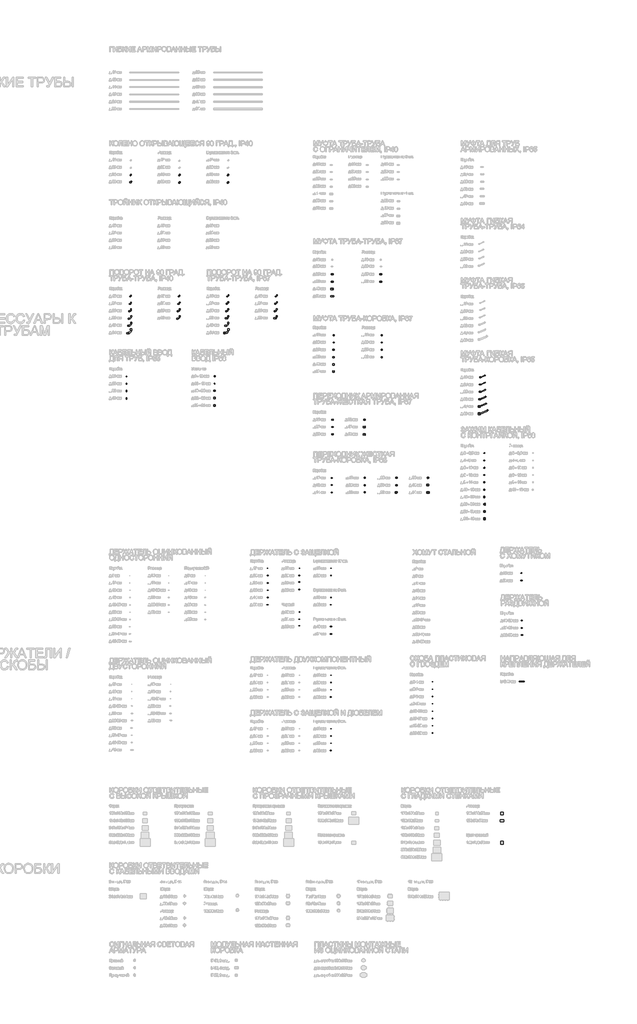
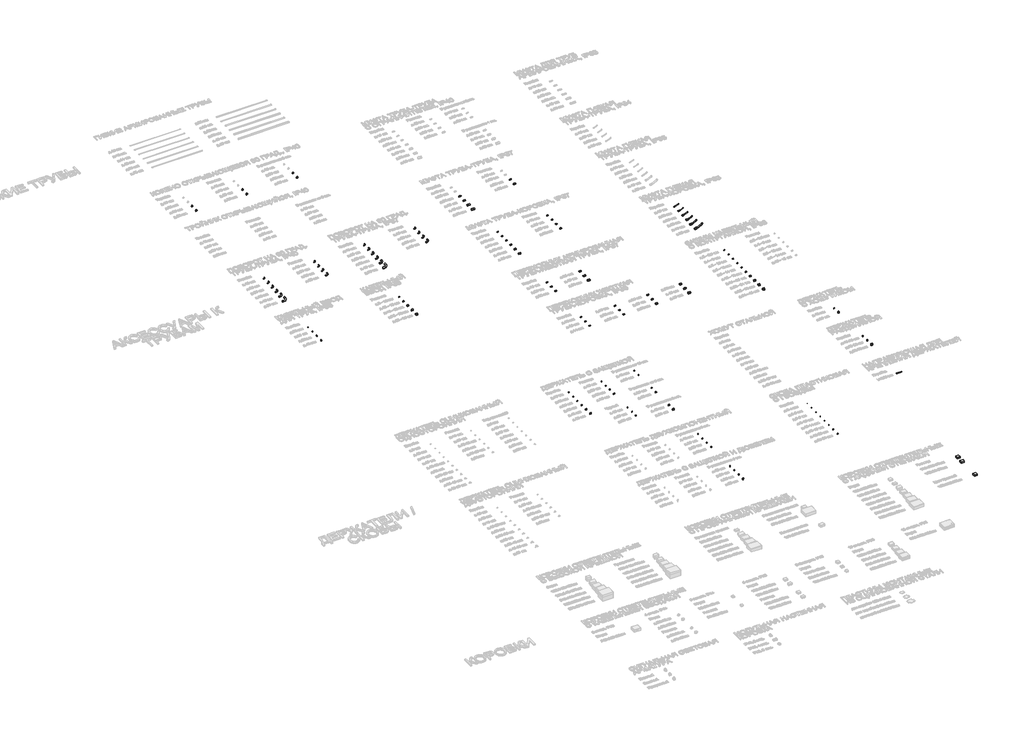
# One storey, part 2 of 98: 129 cable carrier fittings.
"""IFC4 building model written with IfcOpenShell, lengths in millimetres."""

from ifc_helpers import new_model, si_unit, origin, place, context, project, spatial, transform, mapped, element, save
from components import cable_carrier_fitting_83c2f6c6, cable_carrier_fitting_959dfac2, cable_carrier_fitting_0964ab42, cable_carrier_fitting_ca461cb8, cable_carrier_fitting_a28cdcb1, cable_carrier_fitting_54d621f1, cable_carrier_fitting_f241299a, cable_carrier_fitting_741d80a6, cable_carrier_fitting_49833688, cable_carrier_fitting_de7adbcc, cable_carrier_fitting_a7bed1c5, cable_carrier_fitting_572a19a3, cable_carrier_fitting_d5417fdc, cable_carrier_fitting_6614c523, cable_carrier_fitting_7d5fb7ba, cable_carrier_fitting_f1db5e13, cable_carrier_fitting_29cb25d6, cable_carrier_fitting_53d51709, cable_carrier_fitting_f18409c2, cable_carrier_fitting_ed05870d, cable_carrier_fitting_e81b3390, cable_carrier_fitting_d01f91c6, cable_carrier_fitting_8029289c, cable_carrier_fitting_36a5ff78, cable_carrier_fitting_5adaba82, cable_carrier_fitting_e3ed867f, cable_carrier_fitting_b6fb6266, cable_carrier_fitting_de506a34, cable_carrier_fitting_93dc7e58, cable_carrier_fitting_cf0889e4, cable_carrier_fitting_018abd7d, cable_carrier_fitting_06a44238, cable_carrier_fitting_236aead8, cable_carrier_fitting_1d697b25, cable_carrier_fitting_911b79ea, cable_carrier_fitting_f387fdf7, cable_carrier_fitting_cebaea63, cable_carrier_fitting_9d59da82, cable_carrier_fitting_9543473c, cable_carrier_fitting_1d1fce48, cable_carrier_fitting_292e486f, cable_carrier_fitting_314b5b7c, cable_carrier_fitting_377cf926, cable_carrier_fitting_34188251, cable_carrier_fitting_9b3bb634, cable_carrier_fitting_79252797, cable_carrier_fitting_e6de56af, cable_carrier_fitting_104c7cc9, cable_carrier_fitting_5131cb3e, cable_carrier_fitting_73b6cbb2, cable_carrier_fitting_b4176504, cable_carrier_fitting_637ef5a0, cable_carrier_fitting_ca41fa86, cable_carrier_fitting_328e0a5f, cable_carrier_fitting_8bd09c2a, cable_carrier_fitting_1310a5ac, cable_carrier_fitting_f97c49a7, cable_carrier_fitting_1d412742, cable_carrier_fitting_4c093579, cable_carrier_fitting_d7937d52, cable_carrier_fitting_667f8432, cable_carrier_fitting_6d12a164, cable_carrier_fitting_f9239042, cable_carrier_fitting_6c4db289, cable_carrier_fitting_a5287bdb, cable_carrier_fitting_16f909ff, cable_carrier_fitting_b7b49f06, cable_carrier_fitting_039d6c27, cable_carrier_fitting_81e078ec, cable_carrier_fitting_7bb26303, cable_carrier_fitting_d82fc51b, cable_carrier_fitting_847e22f6, cable_carrier_fitting_92adc8bc, cable_carrier_fitting_c5d78289, cable_carrier_fitting_eb64f451, cable_carrier_fitting_78a60928, cable_carrier_fitting_e854332b, cable_carrier_fitting_eb13e9ea, cable_carrier_fitting_b36d870f, cable_carrier_fitting_307e7997, cable_carrier_fitting_c9cf25a2, cable_carrier_fitting_76a3004d, cable_carrier_fitting_96dc2688, cable_carrier_fitting_54e21223, cable_carrier_fitting_8727f749, cable_carrier_fitting_9cea8719, cable_carrier_fitting_881643a7, cable_carrier_fitting_f37e0b65, cable_carrier_fitting_2b931e0a, cable_carrier_fitting_b4ac2e59, cable_carrier_fitting_32bc2b01, cable_carrier_fitting_29bca8ed

model = new_model("IFC4")

# Units and contexts
model_context = context("Model", 3, world=origin())
ifc_project = project(units=[si_unit("LENGTHUNIT", "METRE", prefix="MILLI")], contexts=[model_context])

# Site, building, storey
site = spatial("IfcSite", under=ifc_project)
building = spatial("IfcBuilding", under=site)
storey = spatial("IfcBuildingStorey", under=building, Name="Этаж 01", Elevation=0.0)

# Cable carrier fittings
placement = place(None, origin())
cable_carrier_fitting_shape = cable_carrier_fitting_83c2f6c6(model_context)
element("IfcCableCarrierFitting", 1, ObjectType="КНС_ДержательСЗащелкой_DKC : д.25мм, черный", at=placement, inside=storey, context=model_context, shape_type="MappedRepresentation", body=[
    mapped(cable_carrier_fitting_shape, transform((7768.9220832, -34584.0747966, 0.0), x_axis=(1.0, 0.0, 0.0), y_axis=(0.0, 1.0, 0.0), z_axis=(0.0, 0.0, 1.0))),
])
cable_carrier_fitting_2_shape = cable_carrier_fitting_959dfac2(model_context)
element("IfcCableCarrierFitting", 2, ObjectType="КНС_ДержательСЗащелкой_DKC : д.20мм, черный", at=placement, inside=storey, context=model_context, shape_type="MappedRepresentation", body=[
    mapped(cable_carrier_fitting_2_shape, transform((7768.9220832, -34316.3856383, 0.0), x_axis=(1.0, 0.0, 0.0), y_axis=(0.0, 1.0, 0.0), z_axis=(0.0, 0.0, 1.0))),
])
cable_carrier_fitting_3_shape = cable_carrier_fitting_0964ab42(model_context)
element("IfcCableCarrierFitting", 3, ObjectType="КНС_ДержательСЗащелкой_DKC : д.16мм, черный", at=placement, inside=storey, context=model_context, shape_type="MappedRepresentation", body=[
    mapped(cable_carrier_fitting_3_shape, transform((7768.9220832, -34016.3856383, 0.0), x_axis=(1.0, 0.0, 0.0), y_axis=(0.0, 1.0, 0.0), z_axis=(0.0, 0.0, 1.0))),
])
cable_carrier_fitting_4_shape = cable_carrier_fitting_ca461cb8(model_context)
element("IfcCableCarrierFitting", 4, ObjectType="КНС_ДержательСЗащелкой_DKC : д.32мм (розница)", at=placement, inside=storey, context=model_context, shape_type="MappedRepresentation", body=[
    mapped(cable_carrier_fitting_4_shape, transform((7768.9220832, -33084.0747966, 0.0), x_axis=(1.0, 0.0, 0.0), y_axis=(0.0, 1.0, 0.0), z_axis=(0.0, 0.0, 1.0))),
])
element("IfcCableCarrierFitting", 5, ObjectType="КНС_ДержательСЗащелкой_DKC : д.25мм (розница)", at=placement, inside=storey, context=model_context, shape_type="MappedRepresentation", body=[
    mapped(cable_carrier_fitting_shape, transform((7768.9220832, -32784.0747966, 0.0), x_axis=(1.0, 0.0, 0.0), y_axis=(0.0, 1.0, 0.0), z_axis=(0.0, 0.0, 1.0))),
])
element("IfcCableCarrierFitting", 6, ObjectType="КНС_ДержательСЗащелкой_DKC : д.20мм (розница)", at=placement, inside=storey, context=model_context, shape_type="MappedRepresentation", body=[
    mapped(cable_carrier_fitting_2_shape, transform((7768.9220832, -32516.3856383, 0.0), x_axis=(1.0, 0.0, 0.0), y_axis=(0.0, 1.0, 0.0), z_axis=(0.0, 0.0, 1.0))),
])
element("IfcCableCarrierFitting", 7, ObjectType="КНС_ДержательСЗащелкой_DKC : д.16мм (розница)", at=placement, inside=storey, context=model_context, shape_type="MappedRepresentation", body=[
    mapped(cable_carrier_fitting_3_shape, transform((7768.9220832, -32216.3856383, 0.0), x_axis=(1.0, 0.0, 0.0), y_axis=(0.0, 1.0, 0.0), z_axis=(0.0, 0.0, 1.0))),
])
cable_carrier_fitting_5_shape = cable_carrier_fitting_a28cdcb1(model_context)
element("IfcCableCarrierFitting", 8, ObjectType="КНС_ДержательСЗащелкой_DKC : д.50мм, в упаковках по 2шт.", at=placement, inside=storey, context=model_context, shape_type="MappedRepresentation", body=[
    mapped(cable_carrier_fitting_5_shape, transform((9068.9220832, -34916.3856383, 0.0), x_axis=(1.0, 0.0, 0.0), y_axis=(0.0, 1.0, 0.0), z_axis=(0.0, 0.0, 1.0))),
])
cable_carrier_fitting_6_shape = cable_carrier_fitting_54d621f1(model_context)
element("IfcCableCarrierFitting", 9, ObjectType="КНС_ДержательСЗащелкой_DKC : д.40мм, в упаковках по 2шт.", at=placement, inside=storey, context=model_context, shape_type="MappedRepresentation", body=[
    mapped(cable_carrier_fitting_6_shape, transform((9068.9220832, -34616.3856383, 0.0), x_axis=(1.0, 0.0, 0.0), y_axis=(0.0, 1.0, 0.0), z_axis=(0.0, 0.0, 1.0))),
])
element("IfcCableCarrierFitting", 10, ObjectType="КНС_ДержательСЗащелкой_DKC : д.32мм, в упаковках по 5шт.", at=placement, inside=storey, context=model_context, shape_type="MappedRepresentation", body=[
    mapped(cable_carrier_fitting_4_shape, transform((9068.9220832, -33716.3856383, 0.0), x_axis=(1.0, 0.0, 0.0), y_axis=(0.0, 1.0, 0.0), z_axis=(0.0, 0.0, 1.0))),
])
element("IfcCableCarrierFitting", 11, ObjectType="КНС_ДержательСЗащелкой_DKC : д.25мм, в упаковках по 5шт.", at=placement, inside=storey, context=model_context, shape_type="MappedRepresentation", body=[
    mapped(cable_carrier_fitting_shape, transform((9068.9220832, -33416.3856383, 0.0), x_axis=(1.0, 0.0, 0.0), y_axis=(0.0, 1.0, 0.0), z_axis=(0.0, 0.0, 1.0))),
])
element("IfcCableCarrierFitting", 12, ObjectType="КНС_ДержательСЗащелкой_DKC : д.20мм, в упаковках по 10шт.", at=placement, inside=storey, context=model_context, shape_type="MappedRepresentation", body=[
    mapped(cable_carrier_fitting_2_shape, transform((9068.9220832, -32516.3856383, 0.0), x_axis=(1.0, 0.0, 0.0), y_axis=(0.0, 1.0, 0.0), z_axis=(0.0, 0.0, 1.0))),
])
element("IfcCableCarrierFitting", 13, ObjectType="КНС_ДержательСЗащелкой_DKC : д.16мм, в упаковках по 10шт.", at=placement, inside=storey, context=model_context, shape_type="MappedRepresentation", body=[
    mapped(cable_carrier_fitting_3_shape, transform((9068.9220832, -32216.3856383, 0.0), x_axis=(1.0, 0.0, 0.0), y_axis=(0.0, 1.0, 0.0), z_axis=(0.0, 0.0, 1.0))),
])
element("IfcCableCarrierFitting", 14, ObjectType="КНС_ДержательСЗащелкой_DKC : д.50мм", at=placement, inside=storey, context=model_context, shape_type="MappedRepresentation", body=[
    mapped(cable_carrier_fitting_5_shape, transform((6468.9220832, -33716.3856383, 0.0), x_axis=(1.0, 0.0, 0.0), y_axis=(0.0, 1.0, 0.0), z_axis=(0.0, 0.0, 1.0))),
])
element("IfcCableCarrierFitting", 15, ObjectType="КНС_ДержательСЗащелкой_DKC : д.40мм", at=placement, inside=storey, context=model_context, shape_type="MappedRepresentation", body=[
    mapped(cable_carrier_fitting_6_shape, transform((6468.9220832, -33416.3856383, 0.0), x_axis=(1.0, 0.0, 0.0), y_axis=(0.0, 1.0, 0.0), z_axis=(0.0, 0.0, 1.0))),
])
element("IfcCableCarrierFitting", 16, ObjectType="КНС_ДержательСЗащелкой_DKC : д.32мм", at=placement, inside=storey, context=model_context, shape_type="MappedRepresentation", body=[
    mapped(cable_carrier_fitting_4_shape, transform((6468.9220832, -33116.3856383, 0.0), x_axis=(1.0, 0.0, 0.0), y_axis=(0.0, 1.0, 0.0), z_axis=(0.0, 0.0, 1.0))),
])
element("IfcCableCarrierFitting", 17, ObjectType="КНС_ДержательСЗащелкой_DKC : д.25мм", at=placement, inside=storey, context=model_context, shape_type="MappedRepresentation", body=[
    mapped(cable_carrier_fitting_shape, transform((6468.9220832, -32816.3856383, 0.0), x_axis=(1.0, 0.0, 0.0), y_axis=(0.0, 1.0, 0.0), z_axis=(0.0, 0.0, 1.0))),
])
element("IfcCableCarrierFitting", 18, ObjectType="КНС_ДержательСЗащелкой_DKC : д.20мм", at=placement, inside=storey, context=model_context, shape_type="MappedRepresentation", body=[
    mapped(cable_carrier_fitting_2_shape, transform((6468.9220832, -32516.3856383, 0.0), x_axis=(1.0, 0.0, 0.0), y_axis=(0.0, 1.0, 0.0), z_axis=(0.0, 0.0, 1.0))),
])
element("IfcCableCarrierFitting", 19, ObjectType="КНС_ДержательСЗащелкой_DKC : д.16мм", at=placement, inside=storey, context=model_context, shape_type="MappedRepresentation", body=[
    mapped(cable_carrier_fitting_3_shape, transform((6468.9220832, -32216.3856383, 0.0), x_axis=(1.0, 0.0, 0.0), y_axis=(0.0, 1.0, 0.0), z_axis=(0.0, 0.0, 1.0))),
])
cable_carrier_fitting_7_shape = cable_carrier_fitting_f241299a(model_context)
element("IfcCableCarrierFitting", 20, ObjectType="КНС_КабельныйВводДляТруб_IP55_DKC : Коробка", at=placement, inside=storey, context=model_context, shape_type="MappedRepresentation", body=[
    mapped(cable_carrier_fitting_7_shape, transform((648.3492499, -25227.2484013, 0.0), x_axis=(1.0, 0.0, 0.0), y_axis=(0.0, 1.0, 0.0), z_axis=(0.0, 0.0, 1.0))),
])
cable_carrier_fitting_8_shape = cable_carrier_fitting_741d80a6(model_context)
element("IfcCableCarrierFitting", 21, ObjectType="КНС_КоленоОткрывающееся90Градусов_IP40_DKC : Коробка", at=placement, inside=storey, context=model_context, shape_type="MappedRepresentation", body=[
    mapped(cable_carrier_fitting_8_shape, transform((850.9715545, -16343.5121665, 0.0), x_axis=(1.0, 0.0, 0.0), y_axis=(0.0, 1.0, 0.0), z_axis=(0.0, 0.0, 1.0))),
])
element("IfcCableCarrierFitting", 22, ObjectType="КНС_КоленоОткрывающееся90Градусов_IP40_DKC : Розница", at=placement, inside=storey, context=model_context, shape_type="MappedRepresentation", body=[
    mapped(cable_carrier_fitting_8_shape, transform((2850.9715545, -16359.5121665, 0.0), x_axis=(1.0, 0.0, 0.0), y_axis=(0.0, 1.0, 0.0), z_axis=(0.0, 0.0, 1.0))),
])
element("IfcCableCarrierFitting", 23, ObjectType="КНС_КоленоОткрывающееся90Градусов_IP40_DKC : В упаковках по 2шт.", at=placement, inside=storey, context=model_context, shape_type="MappedRepresentation", body=[
    mapped(cable_carrier_fitting_8_shape, transform((4850.9715545, -16359.5121665, 0.0), x_axis=(1.0, 0.0, 0.0), y_axis=(0.0, 1.0, 0.0), z_axis=(0.0, 0.0, 1.0))),
])
cable_carrier_fitting_9_shape = cable_carrier_fitting_49833688(model_context)
element("IfcCableCarrierFitting", 24, ObjectType="КНС_МуфтаТрубаКоробка_IP67_DKC : Коробка", at=placement, inside=storey, context=model_context, shape_type="MappedRepresentation", body=[
    mapped(cable_carrier_fitting_9_shape, transform((9179.1430911, -23531.5733471, 0.0), x_axis=(1.0, 0.0, 0.0), y_axis=(0.0, 1.0, 0.0), z_axis=(0.0, 0.0, 1.0))),
])
element("IfcCableCarrierFitting", 25, ObjectType="КНС_МуфтаТрубаКоробка_IP67_DKC : Розница", at=placement, inside=storey, context=model_context, shape_type="MappedRepresentation", body=[
    mapped(cable_carrier_fitting_9_shape, transform((11159.1430911, -23531.5733471, 0.0), x_axis=(1.0, 0.0, 0.0), y_axis=(0.0, 1.0, 0.0), z_axis=(0.0, 0.0, 1.0))),
])
cable_carrier_fitting_10_shape = cable_carrier_fitting_de7adbcc(model_context)
element("IfcCableCarrierFitting", 26, ObjectType="КНС_МуфтаТрубаТруба_IP67_DKC : Коробка", at=placement, inside=storey, context=model_context, shape_type="MappedRepresentation", body=[
    mapped(cable_carrier_fitting_10_shape, transform((9122.0021402, -20426.5458067, 0.0), x_axis=(1.0, 0.0, 0.0), y_axis=(0.0, 1.0, 0.0), z_axis=(0.0, 0.0, 1.0))),
])
element("IfcCableCarrierFitting", 27, ObjectType="КНС_МуфтаТрубаТруба_IP67_DKC : Розница", at=placement, inside=storey, context=model_context, shape_type="MappedRepresentation", body=[
    mapped(cable_carrier_fitting_10_shape, transform((11122.0021402, -20426.5458067, 0.0), x_axis=(1.0, 0.0, 0.0), y_axis=(0.0, 1.0, 0.0), z_axis=(0.0, 0.0, 1.0))),
])
cable_carrier_fitting_11_shape = cable_carrier_fitting_a7bed1c5(model_context)
element("IfcCableCarrierFitting", 28, ObjectType="КНС_ПереходникАрмированнаяТрубаЖесткаяТруба_IP67_DKC : Коробка", at=placement, inside=storey, context=model_context, shape_type="MappedRepresentation", body=[
    mapped(cable_carrier_fitting_11_shape, transform((9137.0342975, -26106.1968608, 0.0), x_axis=(1.0, 0.0, 0.0), y_axis=(0.0, 1.0, 0.0), z_axis=(0.0, 0.0, 1.0))),
])
cable_carrier_fitting_12_shape = cable_carrier_fitting_572a19a3(model_context)
element("IfcCableCarrierFitting", 29, ObjectType="КНС_ПереходникАрмированнаяТрубаКоробка_IP65_DKC : Коробка", at=placement, inside=storey, context=model_context, shape_type="MappedRepresentation", body=[
    mapped(cable_carrier_fitting_12_shape, transform((10450.6598848, -28496.3324364, 0.0), x_axis=(1.0, 0.0, 0.0), y_axis=(0.0, 1.0, 0.0), z_axis=(0.0, 0.0, 1.0))),
])
cable_carrier_fitting_13_shape = cable_carrier_fitting_d5417fdc(model_context)
element("IfcCableCarrierFitting", 30, ObjectType="КНС_ПоворотНа90ГрадусовТрубаТруба_IP40_DKC : Коробка", at=placement, inside=storey, context=model_context, shape_type="MappedRepresentation", body=[
    mapped(cable_carrier_fitting_13_shape, transform((850.9715545, -21346.4060286, 0.0), x_axis=(1.0, 0.0, 0.0), y_axis=(0.0, 1.0, 0.0), z_axis=(0.0, 0.0, 1.0))),
])
element("IfcCableCarrierFitting", 31, ObjectType="КНС_ПоворотНа90ГрадусовТрубаТруба_IP40_DKC : Розница", at=placement, inside=storey, context=model_context, shape_type="MappedRepresentation", body=[
    mapped(cable_carrier_fitting_13_shape, transform((2850.9715545, -21346.4060286, 0.0), x_axis=(1.0, 0.0, 0.0), y_axis=(0.0, 1.0, 0.0), z_axis=(0.0, 0.0, 1.0))),
])
cable_carrier_fitting_14_shape = cable_carrier_fitting_6614c523(model_context)
element("IfcCableCarrierFitting", 32, ObjectType="КНС_ПоворотНа90ГрадусовТрубаТруба_IP67_DKC : Коробка", at=placement, inside=storey, context=model_context, shape_type="MappedRepresentation", body=[
    mapped(cable_carrier_fitting_14_shape, transform((4849.9419252, -21039.5808849, 0.0), x_axis=(1.0, 0.0, 0.0), y_axis=(0.0, 1.0, 0.0), z_axis=(0.0, 0.0, 1.0))),
])
element("IfcCableCarrierFitting", 33, ObjectType="КНС_ПоворотНа90ГрадусовТрубаТруба_IP67_DKC : Розница", at=placement, inside=storey, context=model_context, shape_type="MappedRepresentation", body=[
    mapped(cable_carrier_fitting_14_shape, transform((6847.1133471, -21039.5808849, 0.0), x_axis=(1.0, 0.0, 0.0), y_axis=(0.0, 1.0, 0.0), z_axis=(0.0, 0.0, 1.0))),
])
cable_carrier_fitting_15_shape = cable_carrier_fitting_7d5fb7ba(model_context)
element("IfcCableCarrierFitting", 34, ObjectType="КНС_МуфтаТрубаТруба_IP67_DKC : Коробка", at=placement, inside=storey, context=model_context, shape_type="MappedRepresentation", body=[
    mapped(cable_carrier_fitting_15_shape, transform((9122.0021402, -20126.5458067, 0.0), x_axis=(1.0, 0.0, 0.0), y_axis=(0.0, 1.0, 0.0), z_axis=(0.0, 0.0, 1.0))),
])
cable_carrier_fitting_16_shape = cable_carrier_fitting_f1db5e13(model_context)
element("IfcCableCarrierFitting", 35, ObjectType="КНС_МуфтаТрубаТруба_IP67_DKC : Коробка", at=placement, inside=storey, context=model_context, shape_type="MappedRepresentation", body=[
    mapped(cable_carrier_fitting_16_shape, transform((9122.0021402, -20726.5458067, 0.0), x_axis=(1.0, 0.0, 0.0), y_axis=(0.0, 1.0, 0.0), z_axis=(0.0, 0.0, 1.0))),
])
cable_carrier_fitting_17_shape = cable_carrier_fitting_29cb25d6(model_context)
element("IfcCableCarrierFitting", 36, ObjectType="КНС_МуфтаТрубаТруба_IP67_DKC : Коробка", at=placement, inside=storey, context=model_context, shape_type="MappedRepresentation", body=[
    mapped(cable_carrier_fitting_17_shape, transform((9122.0021402, -21026.5458067, 0.0), x_axis=(1.0, 0.0, 0.0), y_axis=(0.0, 1.0, 0.0), z_axis=(0.0, 0.0, 1.0))),
])
element("IfcCableCarrierFitting", 37, ObjectType="КНС_МуфтаТрубаТруба_IP67_DKC : Розница", at=placement, inside=storey, context=model_context, shape_type="MappedRepresentation", body=[
    mapped(cable_carrier_fitting_15_shape, transform((11122.0021402, -20126.5458067, 0.0), x_axis=(1.0, 0.0, 0.0), y_axis=(0.0, 1.0, 0.0), z_axis=(0.0, 0.0, 1.0))),
])
cable_carrier_fitting_18_shape = cable_carrier_fitting_53d51709(model_context)
element("IfcCableCarrierFitting", 38, ObjectType="КНС_КабельныйВводДляТруб_IP55_DKC : Коробка", at=placement, inside=storey, context=model_context, shape_type="MappedRepresentation", body=[
    mapped(cable_carrier_fitting_18_shape, transform((648.3492499, -24327.2484013, 0.0), x_axis=(1.0, 0.0, 0.0), y_axis=(0.0, 1.0, 0.0), z_axis=(0.0, 0.0, 1.0))),
])
cable_carrier_fitting_19_shape = cable_carrier_fitting_f18409c2(model_context)
element("IfcCableCarrierFitting", 39, ObjectType="КНС_КабельныйВводДляТруб_IP55_DKC : Коробка", at=placement, inside=storey, context=model_context, shape_type="MappedRepresentation", body=[
    mapped(cable_carrier_fitting_19_shape, transform((648.3492499, -24627.2484013, 0.0), x_axis=(1.0, 0.0, 0.0), y_axis=(0.0, 1.0, 0.0), z_axis=(0.0, 0.0, 1.0))),
])
cable_carrier_fitting_20_shape = cable_carrier_fitting_ed05870d(model_context)
element("IfcCableCarrierFitting", 40, ObjectType="КНС_КабельныйВводДляТруб_IP55_DKC : Коробка", at=placement, inside=storey, context=model_context, shape_type="MappedRepresentation", body=[
    mapped(cable_carrier_fitting_20_shape, transform((648.3492499, -24927.2484013, 0.0), x_axis=(1.0, 0.0, 0.0), y_axis=(0.0, 1.0, 0.0), z_axis=(0.0, 0.0, 1.0))),
])
cable_carrier_fitting_21_shape = cable_carrier_fitting_e81b3390(model_context)
element("IfcCableCarrierFitting", 41, ObjectType="КНС_КоленоОткрывающееся90Градусов_IP40_DKC : Коробка", at=placement, inside=storey, context=model_context, shape_type="MappedRepresentation", body=[
    mapped(cable_carrier_fitting_21_shape, transform((850.9715545, -16047.0121665, 0.0), x_axis=(1.0, 0.0, 0.0), y_axis=(0.0, 1.0, 0.0), z_axis=(0.0, 0.0, 1.0))),
])
element("IfcCableCarrierFitting", 42, ObjectType="КНС_КоленоОткрывающееся90Градусов_IP40_DKC : Розница", at=placement, inside=storey, context=model_context, shape_type="MappedRepresentation", body=[
    mapped(cable_carrier_fitting_21_shape, transform((2850.9715545, -16059.5121665, 0.0), x_axis=(1.0, 0.0, 0.0), y_axis=(0.0, 1.0, 0.0), z_axis=(0.0, 0.0, 1.0))),
])
element("IfcCableCarrierFitting", 43, ObjectType="КНС_КоленоОткрывающееся90Градусов_IP40_DKC : В упаковках по 2шт.", at=placement, inside=storey, context=model_context, shape_type="MappedRepresentation", body=[
    mapped(cable_carrier_fitting_21_shape, transform((4850.9715545, -16059.5121665, 0.0), x_axis=(1.0, 0.0, 0.0), y_axis=(0.0, 1.0, 0.0), z_axis=(0.0, 0.0, 1.0))),
])
cable_carrier_fitting_22_shape = cable_carrier_fitting_d01f91c6(model_context)
element("IfcCableCarrierFitting", 44, ObjectType="КНС_МуфтаГибкаяТрубаКоробка_IP65_DKC : Коробка", at=placement, inside=storey, context=model_context, shape_type="MappedRepresentation", body=[
    mapped(cable_carrier_fitting_22_shape, transform((15334.2924377, -24359.0708214, 0.0), x_axis=(1.0, 0.0, 0.0), y_axis=(0.0, 1.0, 0.0), z_axis=(0.0, 0.0, 1.0))),
])
cable_carrier_fitting_23_shape = cable_carrier_fitting_8029289c(model_context)
element("IfcCableCarrierFitting", 45, ObjectType="КНС_МуфтаГибкаяТрубаКоробка_IP65_DKC : Коробка", at=placement, inside=storey, context=model_context, shape_type="MappedRepresentation", body=[
    mapped(cable_carrier_fitting_23_shape, transform((15334.2924377, -24659.0708214, 0.0), x_axis=(1.0, 0.0, 0.0), y_axis=(0.0, 1.0, 0.0), z_axis=(0.0, 0.0, 1.0))),
])
cable_carrier_fitting_24_shape = cable_carrier_fitting_36a5ff78(model_context)
element("IfcCableCarrierFitting", 46, ObjectType="КНС_МуфтаГибкаяТрубаКоробка_IP65_DKC : Коробка", at=placement, inside=storey, context=model_context, shape_type="MappedRepresentation", body=[
    mapped(cable_carrier_fitting_24_shape, transform((15334.2924377, -24959.0708214, 0.0), x_axis=(1.0, 0.0, 0.0), y_axis=(0.0, 1.0, 0.0), z_axis=(0.0, 0.0, 1.0))),
])
cable_carrier_fitting_25_shape = cable_carrier_fitting_5adaba82(model_context)
element("IfcCableCarrierFitting", 47, ObjectType="КНС_МуфтаГибкаяТрубаКоробка_IP65_DKC : Коробка", at=placement, inside=storey, context=model_context, shape_type="MappedRepresentation", body=[
    mapped(cable_carrier_fitting_25_shape, transform((15334.2924377, -25259.0708214, 0.0), x_axis=(1.0, 0.0, 0.0), y_axis=(0.0, 1.0, 0.0), z_axis=(0.0, 0.0, 1.0))),
])
cable_carrier_fitting_26_shape = cable_carrier_fitting_e3ed867f(model_context)
element("IfcCableCarrierFitting", 48, ObjectType="КНС_МуфтаГибкаяТрубаКоробка_IP65_DKC : Коробка", at=placement, inside=storey, context=model_context, shape_type="MappedRepresentation", body=[
    mapped(cable_carrier_fitting_26_shape, transform((15334.2924377, -25559.0708214, 0.0), x_axis=(1.0, 0.0, 0.0), y_axis=(0.0, 1.0, 0.0), z_axis=(0.0, 0.0, 1.0))),
])
cable_carrier_fitting_27_shape = cable_carrier_fitting_b6fb6266(model_context)
element("IfcCableCarrierFitting", 49, ObjectType="КНС_МуфтаГибкаяТрубаКоробка_IP65_DKC : Коробка", at=placement, inside=storey, context=model_context, shape_type="MappedRepresentation", body=[
    mapped(cable_carrier_fitting_27_shape, transform((15374.2924377, -25859.0708214, 0.0), x_axis=(1.0, 0.0, 0.0), y_axis=(0.0, 1.0, 0.0), z_axis=(0.0, 0.0, 1.0))),
])
cable_carrier_fitting_28_shape = cable_carrier_fitting_de506a34(model_context)
element("IfcCableCarrierFitting", 50, ObjectType="КНС_ПоворотНа90ГрадусовТрубаТруба_IP67_DKC : Коробка", at=placement, inside=storey, context=model_context, shape_type="MappedRepresentation", body=[
    mapped(cable_carrier_fitting_28_shape, transform((4849.9419252, -21339.5808849, 0.0), x_axis=(1.0, 0.0, 0.0), y_axis=(0.0, 1.0, 0.0), z_axis=(0.0, 0.0, 1.0))),
])
cable_carrier_fitting_29_shape = cable_carrier_fitting_93dc7e58(model_context)
element("IfcCableCarrierFitting", 51, ObjectType="КНС_ПоворотНа90ГрадусовТрубаТруба_IP67_DKC : Коробка", at=placement, inside=storey, context=model_context, shape_type="MappedRepresentation", body=[
    mapped(cable_carrier_fitting_29_shape, transform((4849.9419252, -21639.5808849, 0.0), x_axis=(1.0, 0.0, 0.0), y_axis=(0.0, 1.0, 0.0), z_axis=(0.0, 0.0, 1.0))),
])
cable_carrier_fitting_30_shape = cable_carrier_fitting_cf0889e4(model_context)
element("IfcCableCarrierFitting", 52, ObjectType="КНС_ПоворотНа90ГрадусовТрубаТруба_IP67_DKC : Коробка", at=placement, inside=storey, context=model_context, shape_type="MappedRepresentation", body=[
    mapped(cable_carrier_fitting_30_shape, transform((4849.9419252, -21939.5808849, 0.0), x_axis=(1.0, 0.0, 0.0), y_axis=(0.0, 1.0, 0.0), z_axis=(0.0, 0.0, 1.0))),
])
cable_carrier_fitting_31_shape = cable_carrier_fitting_018abd7d(model_context)
element("IfcCableCarrierFitting", 53, ObjectType="КНС_ПоворотНа90ГрадусовТрубаТруба_IP67_DKC : Коробка", at=placement, inside=storey, context=model_context, shape_type="MappedRepresentation", body=[
    mapped(cable_carrier_fitting_31_shape, transform((4849.9419252, -22239.5808849, 0.0), x_axis=(1.0, 0.0, 0.0), y_axis=(0.0, 1.0, 0.0), z_axis=(0.0, 0.0, 1.0))),
])
cable_carrier_fitting_32_shape = cable_carrier_fitting_06a44238(model_context)
element("IfcCableCarrierFitting", 54, ObjectType="КНС_ПоворотНа90ГрадусовТрубаТруба_IP67_DKC : Коробка", at=placement, inside=storey, context=model_context, shape_type="MappedRepresentation", body=[
    mapped(cable_carrier_fitting_32_shape, transform((4849.9419252, -22539.5808849, 0.0), x_axis=(1.0, 0.0, 0.0), y_axis=(0.0, 1.0, 0.0), z_axis=(0.0, 0.0, 1.0))),
])
element("IfcCableCarrierFitting", 55, ObjectType="КНС_ПоворотНа90ГрадусовТрубаТруба_IP67_DKC : Розница", at=placement, inside=storey, context=model_context, shape_type="MappedRepresentation", body=[
    mapped(cable_carrier_fitting_28_shape, transform((6847.1133471, -21339.5808849, 0.0), x_axis=(1.0, 0.0, 0.0), y_axis=(0.0, 1.0, 0.0), z_axis=(0.0, 0.0, 1.0))),
])
element("IfcCableCarrierFitting", 56, ObjectType="КНС_ПоворотНа90ГрадусовТрубаТруба_IP67_DKC : Розница", at=placement, inside=storey, context=model_context, shape_type="MappedRepresentation", body=[
    mapped(cable_carrier_fitting_29_shape, transform((6847.1133471, -21639.5808849, 0.0), x_axis=(1.0, 0.0, 0.0), y_axis=(0.0, 1.0, 0.0), z_axis=(0.0, 0.0, 1.0))),
])
element("IfcCableCarrierFitting", 57, ObjectType="КНС_ПоворотНа90ГрадусовТрубаТруба_IP67_DKC : Розница", at=placement, inside=storey, context=model_context, shape_type="MappedRepresentation", body=[
    mapped(cable_carrier_fitting_30_shape, transform((6847.1133471, -21939.5808849, 0.0), x_axis=(1.0, 0.0, 0.0), y_axis=(0.0, 1.0, 0.0), z_axis=(0.0, 0.0, 1.0))),
])
cable_carrier_fitting_33_shape = cable_carrier_fitting_236aead8(model_context)
element("IfcCableCarrierFitting", 58, ObjectType="КНС_МуфтаТрубаКоробка_IP67_DKC : Коробка", at=placement, inside=storey, context=model_context, shape_type="MappedRepresentation", body=[
    mapped(cable_carrier_fitting_33_shape, transform((9179.1430911, -22631.5733471, 0.0), x_axis=(1.0, 0.0, 0.0), y_axis=(0.0, 1.0, 0.0), z_axis=(0.0, 0.0, 1.0))),
])
cable_carrier_fitting_34_shape = cable_carrier_fitting_1d697b25(model_context)
element("IfcCableCarrierFitting", 59, ObjectType="КНС_МуфтаТрубаКоробка_IP67_DKC : Коробка", at=placement, inside=storey, context=model_context, shape_type="MappedRepresentation", body=[
    mapped(cable_carrier_fitting_34_shape, transform((9179.1430911, -22931.5733471, 0.0), x_axis=(1.0, 0.0, 0.0), y_axis=(0.0, 1.0, 0.0), z_axis=(0.0, 0.0, 1.0))),
])
cable_carrier_fitting_35_shape = cable_carrier_fitting_911b79ea(model_context)
element("IfcCableCarrierFitting", 60, ObjectType="КНС_МуфтаТрубаКоробка_IP67_DKC : Коробка", at=placement, inside=storey, context=model_context, shape_type="MappedRepresentation", body=[
    mapped(cable_carrier_fitting_35_shape, transform((9179.1430911, -23231.5733471, 0.0), x_axis=(1.0, 0.0, 0.0), y_axis=(0.0, 1.0, 0.0), z_axis=(0.0, 0.0, 1.0))),
])
cable_carrier_fitting_36_shape = cable_carrier_fitting_f387fdf7(model_context)
element("IfcCableCarrierFitting", 61, ObjectType="КНС_МуфтаТрубаКоробка_IP67_DKC : Коробка", at=placement, inside=storey, context=model_context, shape_type="MappedRepresentation", body=[
    mapped(cable_carrier_fitting_36_shape, transform((9179.1430911, -23831.5733471, 0.0), x_axis=(1.0, 0.0, 0.0), y_axis=(0.0, 1.0, 0.0), z_axis=(0.0, 0.0, 1.0))),
])
cable_carrier_fitting_37_shape = cable_carrier_fitting_cebaea63(model_context)
element("IfcCableCarrierFitting", 62, ObjectType="КНС_МуфтаТрубаКоробка_IP67_DKC : Коробка", at=placement, inside=storey, context=model_context, shape_type="MappedRepresentation", body=[
    mapped(cable_carrier_fitting_37_shape, transform((9179.1430911, -24131.5733471, 0.0), x_axis=(1.0, 0.0, 0.0), y_axis=(0.0, 1.0, 0.0), z_axis=(0.0, 0.0, 1.0))),
])
element("IfcCableCarrierFitting", 63, ObjectType="КНС_МуфтаТрубаКоробка_IP67_DKC : Розница", at=placement, inside=storey, context=model_context, shape_type="MappedRepresentation", body=[
    mapped(cable_carrier_fitting_33_shape, transform((11159.1430911, -22631.5733471, 0.0), x_axis=(1.0, 0.0, 0.0), y_axis=(0.0, 1.0, 0.0), z_axis=(0.0, 0.0, 1.0))),
])
element("IfcCableCarrierFitting", 64, ObjectType="КНС_МуфтаТрубаКоробка_IP67_DKC : Розница", at=placement, inside=storey, context=model_context, shape_type="MappedRepresentation", body=[
    mapped(cable_carrier_fitting_34_shape, transform((11159.1430911, -22931.5733471, 0.0), x_axis=(1.0, 0.0, 0.0), y_axis=(0.0, 1.0, 0.0), z_axis=(0.0, 0.0, 1.0))),
])
element("IfcCableCarrierFitting", 65, ObjectType="КНС_МуфтаТрубаКоробка_IP67_DKC : Розница", at=placement, inside=storey, context=model_context, shape_type="MappedRepresentation", body=[
    mapped(cable_carrier_fitting_35_shape, transform((11159.1430911, -23231.5733471, 0.0), x_axis=(1.0, 0.0, 0.0), y_axis=(0.0, 1.0, 0.0), z_axis=(0.0, 0.0, 1.0))),
])
cable_carrier_fitting_38_shape = cable_carrier_fitting_9d59da82(model_context)
element("IfcCableCarrierFitting", 66, ObjectType="КНС_ПереходникАрмированнаяТрубаКоробка_IP65_DKC : Коробка", at=placement, inside=storey, context=model_context, shape_type="MappedRepresentation", body=[
    mapped(cable_carrier_fitting_38_shape, transform((9097.9494796, -28496.3324364, 0.0), x_axis=(1.0, 0.0, 0.0), y_axis=(0.0, 1.0, 0.0), z_axis=(0.0, 0.0, 1.0))),
])
cable_carrier_fitting_39_shape = cable_carrier_fitting_9543473c(model_context)
element("IfcCableCarrierFitting", 67, ObjectType="КНС_ПереходникАрмированнаяТрубаКоробка_IP65_DKC : Коробка", at=placement, inside=storey, context=model_context, shape_type="MappedRepresentation", body=[
    mapped(cable_carrier_fitting_39_shape, transform((9097.9494796, -28796.3324364, 0.0), x_axis=(1.0, 0.0, 0.0), y_axis=(0.0, 1.0, 0.0), z_axis=(0.0, 0.0, 1.0))),
])
cable_carrier_fitting_40_shape = cable_carrier_fitting_1d1fce48(model_context)
element("IfcCableCarrierFitting", 68, ObjectType="КНС_ПереходникАрмированнаяТрубаКоробка_IP65_DKC : Коробка", at=placement, inside=storey, context=model_context, shape_type="MappedRepresentation", body=[
    mapped(cable_carrier_fitting_40_shape, transform((9097.9494796, -29096.3324364, 0.0), x_axis=(1.0, 0.0, 0.0), y_axis=(0.0, 1.0, 0.0), z_axis=(0.0, 0.0, 1.0))),
])
cable_carrier_fitting_41_shape = cable_carrier_fitting_292e486f(model_context)
element("IfcCableCarrierFitting", 69, ObjectType="КНС_ПереходникАрмированнаяТрубаКоробка_IP65_DKC : Коробка", at=placement, inside=storey, context=model_context, shape_type="MappedRepresentation", body=[
    mapped(cable_carrier_fitting_41_shape, transform((10450.6598848, -28796.3324364, 0.0), x_axis=(1.0, 0.0, 0.0), y_axis=(0.0, 1.0, 0.0), z_axis=(0.0, 0.0, 1.0))),
])
cable_carrier_fitting_42_shape = cable_carrier_fitting_314b5b7c(model_context)
element("IfcCableCarrierFitting", 70, ObjectType="КНС_ПереходникАрмированнаяТрубаКоробка_IP65_DKC : Коробка", at=placement, inside=storey, context=model_context, shape_type="MappedRepresentation", body=[
    mapped(cable_carrier_fitting_42_shape, transform((10450.6598848, -29096.3324364, 0.0), x_axis=(1.0, 0.0, 0.0), y_axis=(0.0, 1.0, 0.0), z_axis=(0.0, 0.0, 1.0))),
])
cable_carrier_fitting_43_shape = cable_carrier_fitting_377cf926(model_context)
element("IfcCableCarrierFitting", 71, ObjectType="КНС_ПереходникАрмированнаяТрубаКоробка_IP65_DKC : Коробка", at=placement, inside=storey, context=model_context, shape_type="MappedRepresentation", body=[
    mapped(cable_carrier_fitting_43_shape, transform((11752.0941102, -28496.3324364, 0.0), x_axis=(1.0, 0.0, 0.0), y_axis=(0.0, 1.0, 0.0), z_axis=(0.0, 0.0, 1.0))),
])
cable_carrier_fitting_44_shape = cable_carrier_fitting_34188251(model_context)
element("IfcCableCarrierFitting", 72, ObjectType="КНС_ПереходникАрмированнаяТрубаКоробка_IP65_DKC : Коробка", at=placement, inside=storey, context=model_context, shape_type="MappedRepresentation", body=[
    mapped(cable_carrier_fitting_44_shape, transform((11752.0941102, -28796.3324364, 0.0), x_axis=(1.0, 0.0, 0.0), y_axis=(0.0, 1.0, 0.0), z_axis=(0.0, 0.0, 1.0))),
])
cable_carrier_fitting_45_shape = cable_carrier_fitting_9b3bb634(model_context)
element("IfcCableCarrierFitting", 73, ObjectType="КНС_ПереходникАрмированнаяТрубаКоробка_IP65_DKC : Коробка", at=placement, inside=storey, context=model_context, shape_type="MappedRepresentation", body=[
    mapped(cable_carrier_fitting_45_shape, transform((11752.0941102, -29096.3324364, 0.0), x_axis=(1.0, 0.0, 0.0), y_axis=(0.0, 1.0, 0.0), z_axis=(0.0, 0.0, 1.0))),
])
cable_carrier_fitting_46_shape = cable_carrier_fitting_79252797(model_context)
element("IfcCableCarrierFitting", 74, ObjectType="КНС_ПереходникАрмированнаяТрубаКоробка_IP65_DKC : Коробка", at=placement, inside=storey, context=model_context, shape_type="MappedRepresentation", body=[
    mapped(cable_carrier_fitting_46_shape, transform((13053.5283357, -28496.3324364, 0.0), x_axis=(1.0, 0.0, 0.0), y_axis=(0.0, 1.0, 0.0), z_axis=(0.0, 0.0, 1.0))),
])
cable_carrier_fitting_47_shape = cable_carrier_fitting_e6de56af(model_context)
element("IfcCableCarrierFitting", 75, ObjectType="КНС_ПереходникАрмированнаяТрубаКоробка_IP65_DKC : Коробка", at=placement, inside=storey, context=model_context, shape_type="MappedRepresentation", body=[
    mapped(cable_carrier_fitting_47_shape, transform((13053.5283357, -28796.3324364, 0.0), x_axis=(1.0, 0.0, 0.0), y_axis=(0.0, 1.0, 0.0), z_axis=(0.0, 0.0, 1.0))),
])
cable_carrier_fitting_48_shape = cable_carrier_fitting_104c7cc9(model_context)
element("IfcCableCarrierFitting", 76, ObjectType="КНС_ПереходникАрмированнаяТрубаКоробка_IP65_DKC : Коробка", at=placement, inside=storey, context=model_context, shape_type="MappedRepresentation", body=[
    mapped(cable_carrier_fitting_48_shape, transform((13053.5283357, -29096.3324364, 0.0), x_axis=(1.0, 0.0, 0.0), y_axis=(0.0, 1.0, 0.0), z_axis=(0.0, 0.0, 1.0))),
])
cable_carrier_fitting_49_shape = cable_carrier_fitting_5131cb3e(model_context)
element("IfcCableCarrierFitting", 77, ObjectType="КНС_ПереходникАрмированнаяТрубаЖесткаяТруба_IP67_DKC : Коробка", at=placement, inside=storey, context=model_context, shape_type="MappedRepresentation", body=[
    mapped(cable_carrier_fitting_49_shape, transform((9137.0342975, -26406.1968608, 0.0), x_axis=(1.0, 0.0, 0.0), y_axis=(0.0, 1.0, 0.0), z_axis=(0.0, 0.0, 1.0))),
])
cable_carrier_fitting_50_shape = cable_carrier_fitting_73b6cbb2(model_context)
element("IfcCableCarrierFitting", 78, ObjectType="КНС_ПереходникАрмированнаяТрубаЖесткаяТруба_IP67_DKC : Коробка", at=placement, inside=storey, context=model_context, shape_type="MappedRepresentation", body=[
    mapped(cable_carrier_fitting_50_shape, transform((9137.0342975, -26706.1968608, 0.0), x_axis=(1.0, 0.0, 0.0), y_axis=(0.0, 1.0, 0.0), z_axis=(0.0, 0.0, 1.0))),
])
cable_carrier_fitting_51_shape = cable_carrier_fitting_b4176504(model_context)
element("IfcCableCarrierFitting", 79, ObjectType="КНС_ПереходникАрмированнаяТрубаЖесткаяТруба_IP67_DKC : Коробка", at=placement, inside=storey, context=model_context, shape_type="MappedRepresentation", body=[
    mapped(cable_carrier_fitting_51_shape, transform((10452.6892607, -26106.1968608, 0.0), x_axis=(1.0, 0.0, 0.0), y_axis=(0.0, 1.0, 0.0), z_axis=(0.0, 0.0, 1.0))),
])
cable_carrier_fitting_52_shape = cable_carrier_fitting_637ef5a0(model_context)
element("IfcCableCarrierFitting", 80, ObjectType="КНС_ПереходникАрмированнаяТрубаЖесткаяТруба_IP67_DKC : Коробка", at=placement, inside=storey, context=model_context, shape_type="MappedRepresentation", body=[
    mapped(cable_carrier_fitting_52_shape, transform((10452.6892607, -26406.1968608, 0.0), x_axis=(1.0, 0.0, 0.0), y_axis=(0.0, 1.0, 0.0), z_axis=(0.0, 0.0, 1.0))),
])
cable_carrier_fitting_53_shape = cable_carrier_fitting_ca41fa86(model_context)
element("IfcCableCarrierFitting", 81, ObjectType="КНС_ПереходникАрмированнаяТрубаЖесткаяТруба_IP67_DKC : Коробка", at=placement, inside=storey, context=model_context, shape_type="MappedRepresentation", body=[
    mapped(cable_carrier_fitting_53_shape, transform((10452.6892607, -26706.1968608, 0.0), x_axis=(1.0, 0.0, 0.0), y_axis=(0.0, 1.0, 0.0), z_axis=(0.0, 0.0, 1.0))),
])
cable_carrier_fitting_54_shape = cable_carrier_fitting_328e0a5f(model_context)
element("IfcCableCarrierFitting", 82, ObjectType="КНС_ДержательДвухкомпонентный_DKC : д.32мм, в упаковках по 5шт.", at=placement, inside=storey, context=model_context, shape_type="MappedRepresentation", body=[
    mapped(cable_carrier_fitting_54_shape, transform((9068.9220832, -37516.3856383, 0.0), x_axis=(1.0, 0.0, 0.0), y_axis=(0.0, 1.0, 0.0), z_axis=(0.0, 0.0, 1.0))),
])
cable_carrier_fitting_55_shape = cable_carrier_fitting_8bd09c2a(model_context)
element("IfcCableCarrierFitting", 83, ObjectType="КНС_ДержательДвухкомпонентный_DKC : д.25мм, в упаковках по 5шт.", at=placement, inside=storey, context=model_context, shape_type="MappedRepresentation", body=[
    mapped(cable_carrier_fitting_55_shape, transform((9068.9220832, -37216.3856383, 0.0), x_axis=(1.0, 0.0, 0.0), y_axis=(0.0, 1.0, 0.0), z_axis=(0.0, 0.0, 1.0))),
])
cable_carrier_fitting_56_shape = cable_carrier_fitting_1310a5ac(model_context)
element("IfcCableCarrierFitting", 84, ObjectType="КНС_ДержательДвухкомпонентный_DKC : д.20мм, в упаковках по 5шт.", at=placement, inside=storey, context=model_context, shape_type="MappedRepresentation", body=[
    mapped(cable_carrier_fitting_56_shape, transform((9068.9220832, -36916.3856383, 0.0), x_axis=(1.0, 0.0, 0.0), y_axis=(0.0, 1.0, 0.0), z_axis=(0.0, 0.0, 1.0))),
])
cable_carrier_fitting_57_shape = cable_carrier_fitting_f97c49a7(model_context)
element("IfcCableCarrierFitting", 85, ObjectType="КНС_ДержательДвухкомпонентный_DKC : д.16мм, в упаковках по 5шт.", at=placement, inside=storey, context=model_context, shape_type="MappedRepresentation", body=[
    mapped(cable_carrier_fitting_57_shape, transform((9068.9220832, -36616.3856383, 0.0), x_axis=(1.0, 0.0, 0.0), y_axis=(0.0, 1.0, 0.0), z_axis=(0.0, 0.0, 1.0))),
])
cable_carrier_fitting_58_shape = cable_carrier_fitting_1d412742(model_context)
element("IfcCableCarrierFitting", 86, ObjectType="КНС_ДержательСЗащелкойИДюбелем_DKC : д.32мм, в упаковках по 5шт.", at=placement, inside=storey, context=model_context, shape_type="MappedRepresentation", body=[
    mapped(cable_carrier_fitting_58_shape, transform((9068.9220832, -39716.3856383, 0.0), x_axis=(1.0, 0.0, 0.0), y_axis=(0.0, 1.0, 0.0), z_axis=(0.0, 0.0, 1.0))),
])
cable_carrier_fitting_59_shape = cable_carrier_fitting_4c093579(model_context)
element("IfcCableCarrierFitting", 87, ObjectType="КНС_ДержательСЗащелкойИДюбелем_DKC : д.25мм, в упаковках по 5шт.", at=placement, inside=storey, context=model_context, shape_type="MappedRepresentation", body=[
    mapped(cable_carrier_fitting_59_shape, transform((9068.9220832, -39416.3856383, 0.0), x_axis=(1.0, 0.0, 0.0), y_axis=(0.0, 1.0, 0.0), z_axis=(0.0, 0.0, 1.0))),
])
cable_carrier_fitting_60_shape = cable_carrier_fitting_d7937d52(model_context)
element("IfcCableCarrierFitting", 88, ObjectType="КНС_ДержательСЗащелкойИДюбелем_DKC : д.20мм, в упаковках по 5шт.", at=placement, inside=storey, context=model_context, shape_type="MappedRepresentation", body=[
    mapped(cable_carrier_fitting_60_shape, transform((9068.9220832, -39116.3856383, 0.0), x_axis=(1.0, 0.0, 0.0), y_axis=(0.0, 1.0, 0.0), z_axis=(0.0, 0.0, 1.0))),
])
cable_carrier_fitting_61_shape = cable_carrier_fitting_667f8432(model_context)
element("IfcCableCarrierFitting", 89, ObjectType="КНС_ДержательСЗащелкойИДюбелем_DKC : д.16мм, в упаковках по 5шт.", at=placement, inside=storey, context=model_context, shape_type="MappedRepresentation", body=[
    mapped(cable_carrier_fitting_61_shape, transform((9068.9220832, -38816.3856383, 0.0), x_axis=(1.0, 0.0, 0.0), y_axis=(0.0, 1.0, 0.0), z_axis=(0.0, 0.0, 1.0))),
])
cable_carrier_fitting_62_shape = cable_carrier_fitting_6d12a164(model_context)
element("IfcCableCarrierFitting", 90, ObjectType="КНС_ДержательСХомутиком_DKC : д.16 - 32мм", at=placement, inside=storey, context=model_context, shape_type="MappedRepresentation", body=[
    mapped(cable_carrier_fitting_62_shape, transform((16901.4172654, -32417.6037559, 0.0), x_axis=(1.0, 0.0, 0.0), y_axis=(0.0, 1.0, 0.0), z_axis=(0.0, 0.0, 1.0))),
])
cable_carrier_fitting_63_shape = cable_carrier_fitting_f9239042(model_context)
element("IfcCableCarrierFitting", 91, ObjectType="КНС_ДержательСХомутиком_DKC : д.25 - 63мм", at=placement, inside=storey, context=model_context, shape_type="MappedRepresentation", body=[
    mapped(cable_carrier_fitting_63_shape, transform((16901.4172654, -32717.6037559, 0.0), x_axis=(1.0, 0.0, 0.0), y_axis=(0.0, 1.0, 0.0), z_axis=(0.0, 0.0, 1.0))),
])
cable_carrier_fitting_64_shape = cable_carrier_fitting_6c4db289(model_context)
element("IfcCableCarrierFitting", 92, ObjectType="КНС_СкобаПластиковаяСГвоздем_DKC : д.25 - 26мм", at=placement, inside=storey, context=model_context, shape_type="MappedRepresentation", body=[
    mapped(cable_carrier_fitting_64_shape, transform((13249.8950242, -38992.0813259, 0.0), x_axis=(1.0, 0.0, 0.0), y_axis=(0.0, 1.0, 0.0), z_axis=(0.0, 0.0, 1.0))),
])
cable_carrier_fitting_65_shape = cable_carrier_fitting_a5287bdb(model_context)
element("IfcCableCarrierFitting", 93, ObjectType="КНС_СкобаПластиковаяСГвоздем_DKC : д.19 - 20мм", at=placement, inside=storey, context=model_context, shape_type="MappedRepresentation", body=[
    mapped(cable_carrier_fitting_65_shape, transform((13249.8950242, -38692.0813259, 0.0), x_axis=(1.0, 0.0, 0.0), y_axis=(0.0, 1.0, 0.0), z_axis=(0.0, 0.0, 1.0))),
])
cable_carrier_fitting_66_shape = cable_carrier_fitting_16f909ff(model_context)
element("IfcCableCarrierFitting", 94, ObjectType="КНС_СкобаПластиковаяСГвоздем_DKC : д.15 - 16мм", at=placement, inside=storey, context=model_context, shape_type="MappedRepresentation", body=[
    mapped(cable_carrier_fitting_66_shape, transform((13249.8950242, -38392.0813259, 0.0), x_axis=(1.0, 0.0, 0.0), y_axis=(0.0, 1.0, 0.0), z_axis=(0.0, 0.0, 1.0))),
])
cable_carrier_fitting_67_shape = cable_carrier_fitting_b7b49f06(model_context)
element("IfcCableCarrierFitting", 95, ObjectType="КНС_СкобаПластиковаяСГвоздем_DKC : д.13 - 14мм", at=placement, inside=storey, context=model_context, shape_type="MappedRepresentation", body=[
    mapped(cable_carrier_fitting_67_shape, transform((13249.8950242, -38092.0813259, 0.0), x_axis=(1.0, 0.0, 0.0), y_axis=(0.0, 1.0, 0.0), z_axis=(0.0, 0.0, 1.0))),
])
cable_carrier_fitting_68_shape = cable_carrier_fitting_039d6c27(model_context)
element("IfcCableCarrierFitting", 96, ObjectType="КНС_СкобаПластиковаяСГвоздем_DKC : д.9 - 10мм", at=placement, inside=storey, context=model_context, shape_type="MappedRepresentation", body=[
    mapped(cable_carrier_fitting_68_shape, transform((13249.8950242, -37792.0813259, 0.0), x_axis=(1.0, 0.0, 0.0), y_axis=(0.0, 1.0, 0.0), z_axis=(0.0, 0.0, 1.0))),
])
cable_carrier_fitting_69_shape = cable_carrier_fitting_81e078ec(model_context)
element("IfcCableCarrierFitting", 97, ObjectType="КНС_СкобаПластиковаяСГвоздем_DKC : д.7 - 8мм", at=placement, inside=storey, context=model_context, shape_type="MappedRepresentation", body=[
    mapped(cable_carrier_fitting_69_shape, transform((13249.8950242, -37492.0813259, 0.0), x_axis=(1.0, 0.0, 0.0), y_axis=(0.0, 1.0, 0.0), z_axis=(0.0, 0.0, 1.0))),
])
cable_carrier_fitting_70_shape = cable_carrier_fitting_7bb26303(model_context)
element("IfcCableCarrierFitting", 98, ObjectType="КНС_СкобаПластиковаяСГвоздем_DKC : д.5 - 6мм", at=placement, inside=storey, context=model_context, shape_type="MappedRepresentation", body=[
    mapped(cable_carrier_fitting_70_shape, transform((13249.8950242, -37192.0813259, 0.0), x_axis=(1.0, 0.0, 0.0), y_axis=(0.0, 1.0, 0.0), z_axis=(0.0, 0.0, 1.0))),
])
cable_carrier_fitting_71_shape = cable_carrier_fitting_d82fc51b(model_context)
element("IfcCableCarrierFitting", 99, ObjectType="КНС_СкобаПластиковаяСГвоздем_DKC : д.3 - 4мм", at=placement, inside=storey, context=model_context, shape_type="MappedRepresentation", body=[
    mapped(cable_carrier_fitting_71_shape, transform((13249.8950242, -36892.0813259, 0.0), x_axis=(1.0, 0.0, 0.0), y_axis=(0.0, 1.0, 0.0), z_axis=(0.0, 0.0, 1.0))),
])
cable_carrier_fitting_72_shape = cable_carrier_fitting_847e22f6(model_context)
element("IfcCableCarrierFitting", 100, ObjectType="КНС_НаправляющаяДляКрепленияДержателей_DKC : Направляющая для крепления держателей", at=placement, inside=storey, context=model_context, shape_type="MappedRepresentation", body=[
    mapped(cable_carrier_fitting_72_shape, transform((16915.6550502, -36872.4360026, 0.0), x_axis=(1.0, 0.0, 0.0), y_axis=(0.0, 1.0, 0.0), z_axis=(0.0, 0.0, 1.0))),
])
cable_carrier_fitting_73_shape = cable_carrier_fitting_92adc8bc(model_context)
element("IfcCableCarrierFitting", 101, ObjectType="КНС_КабельныйЗажимСКонтрагайкой_IP68_DKC : д.3 - 6,5мм", at=placement, inside=storey, context=model_context, shape_type="MappedRepresentation", body=[
    mapped(cable_carrier_fitting_73_shape, transform((15380.5265443, -27482.25689, 0.0), x_axis=(1.0, 0.0, 0.0), y_axis=(0.0, 1.0, 0.0), z_axis=(0.0, 0.0, 1.0))),
])
cable_carrier_fitting_74_shape = cable_carrier_fitting_c5d78289(model_context)
element("IfcCableCarrierFitting", 102, ObjectType="КНС_КабельныйЗажимСКонтрагайкой_IP68_DKC : д.4 - 8мм", at=placement, inside=storey, context=model_context, shape_type="MappedRepresentation", body=[
    mapped(cable_carrier_fitting_74_shape, transform((15380.5265443, -27782.25689, 0.0), x_axis=(1.0, 0.0, 0.0), y_axis=(0.0, 1.0, 0.0), z_axis=(0.0, 0.0, 1.0))),
])
cable_carrier_fitting_75_shape = cable_carrier_fitting_eb64f451(model_context)
element("IfcCableCarrierFitting", 103, ObjectType="КНС_КабельныйЗажимСКонтрагайкой_IP68_DKC : д.5 - 10мм", at=placement, inside=storey, context=model_context, shape_type="MappedRepresentation", body=[
    mapped(cable_carrier_fitting_75_shape, transform((15380.5265443, -28082.25689, 0.0), x_axis=(1.0, 0.0, 0.0), y_axis=(0.0, 1.0, 0.0), z_axis=(0.0, 0.0, 1.0))),
])
cable_carrier_fitting_76_shape = cable_carrier_fitting_78a60928(model_context)
element("IfcCableCarrierFitting", 104, ObjectType="КНС_КабельныйЗажимСКонтрагайкой_IP68_DKC : д.9 - 14мм", at=placement, inside=storey, context=model_context, shape_type="MappedRepresentation", body=[
    mapped(cable_carrier_fitting_76_shape, transform((15380.5265443, -28682.25689, 0.0), x_axis=(1.0, 0.0, 0.0), y_axis=(0.0, 1.0, 0.0), z_axis=(0.0, 0.0, 1.0))),
])
cable_carrier_fitting_77_shape = cable_carrier_fitting_e854332b(model_context)
element("IfcCableCarrierFitting", 105, ObjectType="КНС_КабельныйЗажимСКонтрагайкой_IP68_DKC : д.6 - 12мм", at=placement, inside=storey, context=model_context, shape_type="MappedRepresentation", body=[
    mapped(cable_carrier_fitting_77_shape, transform((15380.5265443, -28382.25689, 0.0), x_axis=(1.0, 0.0, 0.0), y_axis=(0.0, 1.0, 0.0), z_axis=(0.0, 0.0, 1.0))),
])
cable_carrier_fitting_78_shape = cable_carrier_fitting_eb13e9ea(model_context)
element("IfcCableCarrierFitting", 106, ObjectType="КНС_КабельныйЗажимСКонтрагайкой_IP68_DKC : д.13 - 18мм", at=placement, inside=storey, context=model_context, shape_type="MappedRepresentation", body=[
    mapped(cable_carrier_fitting_78_shape, transform((15380.5265443, -28982.25689, 0.0), x_axis=(1.0, 0.0, 0.0), y_axis=(0.0, 1.0, 0.0), z_axis=(0.0, 0.0, 1.0))),
])
cable_carrier_fitting_79_shape = cable_carrier_fitting_b36d870f(model_context)
element("IfcCableCarrierFitting", 107, ObjectType="КНС_КабельныйЗажимСКонтрагайкой_IP68_DKC : д.15 - 25мм", at=placement, inside=storey, context=model_context, shape_type="MappedRepresentation", body=[
    mapped(cable_carrier_fitting_79_shape, transform((15380.5265443, -29282.25689, 0.0), x_axis=(1.0, 0.0, 0.0), y_axis=(0.0, 1.0, 0.0), z_axis=(0.0, 0.0, 1.0))),
])
cable_carrier_fitting_80_shape = cable_carrier_fitting_307e7997(model_context)
element("IfcCableCarrierFitting", 108, ObjectType="КНС_КабельныйЗажимСКонтрагайкой_IP68_DKC : д.20 - 31мм", at=placement, inside=storey, context=model_context, shape_type="MappedRepresentation", body=[
    mapped(cable_carrier_fitting_80_shape, transform((15380.5265443, -29582.25689, 0.0), x_axis=(1.0, 0.0, 0.0), y_axis=(0.0, 1.0, 0.0), z_axis=(0.0, 0.0, 1.0))),
])
cable_carrier_fitting_81_shape = cable_carrier_fitting_c9cf25a2(model_context)
element("IfcCableCarrierFitting", 109, ObjectType="КНС_КабельныйЗажимСКонтрагайкой_IP68_DKC : д.28 - 38мм", at=placement, inside=storey, context=model_context, shape_type="MappedRepresentation", body=[
    mapped(cable_carrier_fitting_81_shape, transform((15380.5265443, -29882.25689, 0.0), x_axis=(1.0, 0.0, 0.0), y_axis=(0.0, 1.0, 0.0), z_axis=(0.0, 0.0, 1.0))),
])
cable_carrier_fitting_82_shape = cable_carrier_fitting_76a3004d(model_context)
element("IfcCableCarrierFitting", 110, ObjectType="КНС_КабельныйЗажимСКонтрагайкой_IP68_DKC : д.34 - 43мм", at=placement, inside=storey, context=model_context, shape_type="MappedRepresentation", body=[
    mapped(cable_carrier_fitting_82_shape, transform((15380.5265443, -30182.25689, 0.0), x_axis=(1.0, 0.0, 0.0), y_axis=(0.0, 1.0, 0.0), z_axis=(0.0, 0.0, 1.0))),
])
element("IfcCableCarrierFitting", 111, ObjectType="КНС_КабельныйВвод_IP68_DKC : д.6 - 12мм", at=placement, inside=storey, context=model_context, shape_type="MappedRepresentation", body=[
    mapped(cable_carrier_fitting_77_shape, transform((4285.4176254, -24318.3072543, 0.0), x_axis=(1.0, 0.0, 0.0), y_axis=(0.0, 1.0, 0.0), z_axis=(0.0, 0.0, 1.0))),
])
element("IfcCableCarrierFitting", 112, ObjectType="КНС_КабельныйВвод_IP68_DKC : д.13 - 18мм", at=placement, inside=storey, context=model_context, shape_type="MappedRepresentation", body=[
    mapped(cable_carrier_fitting_78_shape, transform((4285.4176254, -24618.3072543, 0.0), x_axis=(1.0, 0.0, 0.0), y_axis=(0.0, 1.0, 0.0), z_axis=(0.0, 0.0, 1.0))),
])
element("IfcCableCarrierFitting", 113, ObjectType="КНС_КабельныйВвод_IP68_DKC : д.18 - 25мм", at=placement, inside=storey, context=model_context, shape_type="MappedRepresentation", body=[
    mapped(cable_carrier_fitting_79_shape, transform((4285.4176254, -24918.3072543, 0.0), x_axis=(1.0, 0.0, 0.0), y_axis=(0.0, 1.0, 0.0), z_axis=(0.0, 0.0, 1.0))),
])
element("IfcCableCarrierFitting", 114, ObjectType="КНС_КабельныйВвод_IP68_DKC : д.22 - 32мм", at=placement, inside=storey, context=model_context, shape_type="MappedRepresentation", body=[
    mapped(cable_carrier_fitting_80_shape, transform((4285.4176254, -25218.3072543, 0.0), x_axis=(1.0, 0.0, 0.0), y_axis=(0.0, 1.0, 0.0), z_axis=(0.0, 0.0, 1.0))),
])
element("IfcCableCarrierFitting", 115, ObjectType="КНС_КабельныйВвод_IP68_DKC : д.29 - 35мм", at=placement, inside=storey, context=model_context, shape_type="MappedRepresentation", body=[
    mapped(cable_carrier_fitting_81_shape, transform((4285.4176254, -25518.3072543, 0.0), x_axis=(1.0, 0.0, 0.0), y_axis=(0.0, 1.0, 0.0), z_axis=(0.0, 0.0, 1.0))),
])
cable_carrier_fitting_83_shape = cable_carrier_fitting_96dc2688(model_context)
element("IfcCableCarrierFitting", 116, ObjectType="КНС_ДержательРаздвижной_DKC : д.10 - 20мм", at=placement, inside=storey, context=model_context, shape_type="MappedRepresentation", body=[
    mapped(cable_carrier_fitting_83_shape, transform((16923.3898793, -34367.8257833, 0.0), x_axis=(1.0, 0.0, 0.0), y_axis=(0.0, 1.0, 0.0), z_axis=(0.0, 0.0, 1.0))),
])
cable_carrier_fitting_84_shape = cable_carrier_fitting_54e21223(model_context)
element("IfcCableCarrierFitting", 117, ObjectType="КНС_ДержательРаздвижной_DKC : д.20 - 32мм", at=placement, inside=storey, context=model_context, shape_type="MappedRepresentation", body=[
    mapped(cable_carrier_fitting_84_shape, transform((16923.3898793, -34667.8257833, 0.0), x_axis=(1.0, 0.0, 0.0), y_axis=(0.0, 1.0, 0.0), z_axis=(0.0, 0.0, 1.0))),
])
cable_carrier_fitting_85_shape = cable_carrier_fitting_8727f749(model_context)
element("IfcCableCarrierFitting", 118, ObjectType="КНС_ДержательРаздвижной_DKC : д.32 - 50мм", at=placement, inside=storey, context=model_context, shape_type="MappedRepresentation", body=[
    mapped(cable_carrier_fitting_85_shape, transform((16923.3898793, -34967.8257833, 0.0), x_axis=(1.0, 0.0, 0.0), y_axis=(0.0, 1.0, 0.0), z_axis=(0.0, 0.0, 1.0))),
])
cable_carrier_fitting_86_shape = cable_carrier_fitting_9cea8719(model_context)
element("IfcCableCarrierFitting", 119, ObjectType="КНС_КоробкаОтветвительнаяСГладкимиСтенками_DKC : 120х80х50мм (розница)", at=placement, inside=storey, context=model_context, shape_type="MappedRepresentation", body=[
    mapped(cable_carrier_fitting_86_shape, transform((16111.1020091, -42602.5373486, 0.0), x_axis=(1.0, 0.0, 0.0), y_axis=(0.0, 1.0, 0.0), z_axis=(0.0, 0.0, 1.0))),
])
cable_carrier_fitting_87_shape = cable_carrier_fitting_881643a7(model_context)
element("IfcCableCarrierFitting", 120, ObjectType="КНС_КоробкаОтветвительнаяСГладкимиСтенками_DKC : 100х100х50мм (розница)", at=placement, inside=storey, context=model_context, shape_type="MappedRepresentation", body=[
    mapped(cable_carrier_fitting_87_shape, transform((16111.1020091, -42302.5373486, 0.0), x_axis=(1.0, 0.0, 0.0), y_axis=(0.0, 1.0, 0.0), z_axis=(0.0, 0.0, 1.0))),
])
element("IfcCableCarrierFitting", 121, ObjectType="КНС_КоробкаОтветвительнаяСГладкимиСтенками_DKC : 100х100х50мм,цвет красный", at=placement, inside=storey, context=model_context, shape_type="MappedRepresentation", body=[
    mapped(cable_carrier_fitting_87_shape, transform((16111.1020091, -43502.5373486, 0.0), x_axis=(1.0, 0.0, 0.0), y_axis=(0.0, 1.0, 0.0), z_axis=(0.0, 0.0, 1.0))),
])
cable_carrier_fitting_88_shape = cable_carrier_fitting_f37e0b65(model_context)
element("IfcCableCarrierFitting", 122, ObjectType="КНС_ПоворотНа90ГрадусовТрубаТруба_IP40_DKC : Коробка", at=placement, inside=storey, context=model_context, shape_type="MappedRepresentation", body=[
    mapped(cable_carrier_fitting_88_shape, transform((850.9715545, -21046.4060286, 0.0), x_axis=(1.0, 0.0, 0.0), y_axis=(0.0, 1.0, 0.0), z_axis=(0.0, 0.0, 1.0))),
])
cable_carrier_fitting_89_shape = cable_carrier_fitting_2b931e0a(model_context)
element("IfcCableCarrierFitting", 123, ObjectType="КНС_ПоворотНа90ГрадусовТрубаТруба_IP40_DKC : Коробка", at=placement, inside=storey, context=model_context, shape_type="MappedRepresentation", body=[
    mapped(cable_carrier_fitting_89_shape, transform((850.9715545, -21646.4060286, 0.0), x_axis=(1.0, 0.0, 0.0), y_axis=(0.0, 1.0, 0.0), z_axis=(0.0, 0.0, 1.0))),
])
cable_carrier_fitting_90_shape = cable_carrier_fitting_b4ac2e59(model_context)
element("IfcCableCarrierFitting", 124, ObjectType="КНС_ПоворотНа90ГрадусовТрубаТруба_IP40_DKC : Коробка", at=placement, inside=storey, context=model_context, shape_type="MappedRepresentation", body=[
    mapped(cable_carrier_fitting_90_shape, transform((850.9715545, -21946.4060286, 0.0), x_axis=(1.0, 0.0, 0.0), y_axis=(0.0, 1.0, 0.0), z_axis=(0.0, 0.0, 1.0))),
])
cable_carrier_fitting_91_shape = cable_carrier_fitting_32bc2b01(model_context)
element("IfcCableCarrierFitting", 125, ObjectType="КНС_ПоворотНа90ГрадусовТрубаТруба_IP40_DKC : Коробка", at=placement, inside=storey, context=model_context, shape_type="MappedRepresentation", body=[
    mapped(cable_carrier_fitting_91_shape, transform((850.9715545, -22246.4060286, 0.0), x_axis=(1.0, 0.0, 0.0), y_axis=(0.0, 1.0, 0.0), z_axis=(0.0, 0.0, 1.0))),
])
cable_carrier_fitting_92_shape = cable_carrier_fitting_29bca8ed(model_context)
element("IfcCableCarrierFitting", 126, ObjectType="КНС_ПоворотНа90ГрадусовТрубаТруба_IP40_DKC : Коробка", at=placement, inside=storey, context=model_context, shape_type="MappedRepresentation", body=[
    mapped(cable_carrier_fitting_92_shape, transform((850.9715545, -22546.4060286, 0.0), x_axis=(1.0, 0.0, 0.0), y_axis=(0.0, 1.0, 0.0), z_axis=(0.0, 0.0, 1.0))),
])
element("IfcCableCarrierFitting", 127, ObjectType="КНС_ПоворотНа90ГрадусовТрубаТруба_IP40_DKC : Розница", at=placement, inside=storey, context=model_context, shape_type="MappedRepresentation", body=[
    mapped(cable_carrier_fitting_88_shape, transform((2850.9715545, -21046.4060286, 0.0), x_axis=(1.0, 0.0, 0.0), y_axis=(0.0, 1.0, 0.0), z_axis=(0.0, 0.0, 1.0))),
])
element("IfcCableCarrierFitting", 128, ObjectType="КНС_ПоворотНа90ГрадусовТрубаТруба_IP40_DKC : Розница", at=placement, inside=storey, context=model_context, shape_type="MappedRepresentation", body=[
    mapped(cable_carrier_fitting_89_shape, transform((2850.9715545, -21646.4060286, 0.0), x_axis=(1.0, 0.0, 0.0), y_axis=(0.0, 1.0, 0.0), z_axis=(0.0, 0.0, 1.0))),
])
element("IfcCableCarrierFitting", 129, ObjectType="КНС_ПоворотНа90ГрадусовТрубаТруба_IP40_DKC : Розница", at=placement, inside=storey, context=model_context, shape_type="MappedRepresentation", body=[
    mapped(cable_carrier_fitting_90_shape, transform((2850.9715545, -21946.4060286, 0.0), x_axis=(1.0, 0.0, 0.0), y_axis=(0.0, 1.0, 0.0), z_axis=(0.0, 0.0, 1.0))),
])

save(model, "model.ifc")
